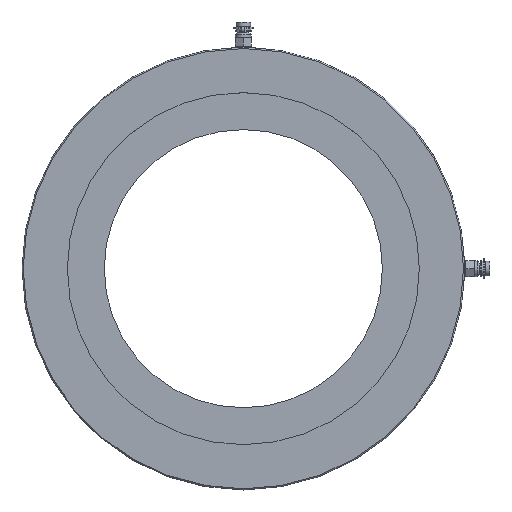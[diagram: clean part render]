
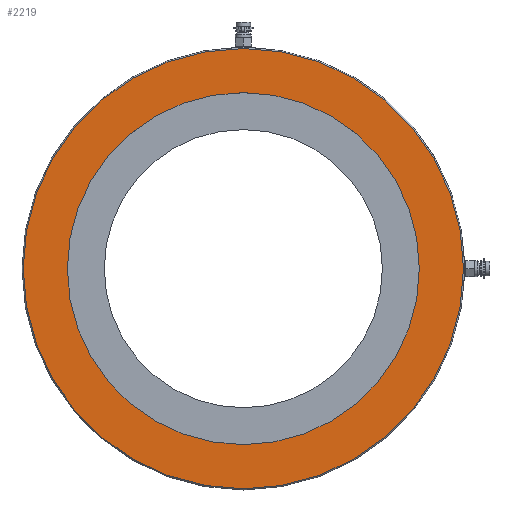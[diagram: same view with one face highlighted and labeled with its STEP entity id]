
A CAD part, top view. The second image highlights one B-rep face of the part: STEP entity #2219.
In plain terms, the highlighted planar face has unit normal (0, 0, 1).
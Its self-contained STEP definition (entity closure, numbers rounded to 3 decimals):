
#2185=CARTESIAN_POINT('',(192.0,0.,9.0));
#2186=VERTEX_POINT('',#2185);
#2187=CARTESIAN_POINT('',(0.0,0.0,9.0));
#2188=DIRECTION('',(0.0,0.0,-1.0));
#2189=DIRECTION('',(-1.0,0.0,0.0));
#2190=AXIS2_PLACEMENT_3D('',#2187,#2188,#2189);
#2191=CIRCLE('',#2190,192.0);
#2192=EDGE_CURVE('',#2186,#2186,#2191,.T.);
#2200=CARTESIAN_POINT('',(0.0,0.0,9.0));
#2201=DIRECTION('',(0.0,0.0,-1.0));
#2202=DIRECTION('',(-1.0,0.0,0.0));
#2203=AXIS2_PLACEMENT_3D('',#2200,#2201,#2202);
#2204=PLANE('',#2203);
#2205=ORIENTED_EDGE('',*,*,#2192,.F.);
#2206=EDGE_LOOP('',(#2205));
#2207=FACE_OUTER_BOUND('',#2206,.T.);
#2208=CARTESIAN_POINT('',(153.5,0.,9.0));
#2209=VERTEX_POINT('',#2208);
#2210=CARTESIAN_POINT('',(0.0,0.0,9.0));
#2211=DIRECTION('',(0.0,0.0,-1.0));
#2212=DIRECTION('',(-1.0,0.0,0.0));
#2213=AXIS2_PLACEMENT_3D('',#2210,#2211,#2212);
#2214=CIRCLE('',#2213,153.5);
#2215=EDGE_CURVE('',#2209,#2209,#2214,.T.);
#2216=ORIENTED_EDGE('',*,*,#2215,.T.);
#2217=EDGE_LOOP('',(#2216));
#2218=FACE_BOUND('',#2217,.T.);
#2219=ADVANCED_FACE('',(#2207,#2218),#2204,.F.);
